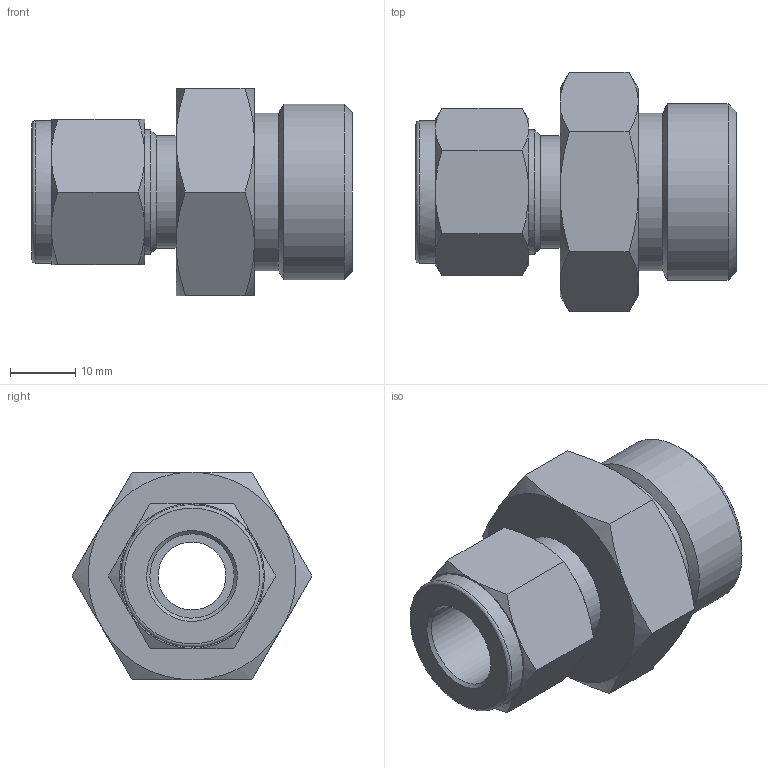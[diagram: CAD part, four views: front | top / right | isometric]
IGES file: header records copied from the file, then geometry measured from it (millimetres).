
Global section: file name: SSMC-8-12U; native system: Autodesk Inventor 2016; preprocessor: unknown; author: DESIGNPC2; date: 20160123.144446; units: millimetre
Bounding box: 49.1 x 36.72 x 31.8 mm (x, y, z)
Volume: 21658.6 mm3; surface area: 7815.2 mm2
Topology: 1 solids, 1 shells, 57 faces, 136 edges, 87 vertices
Faces by surface type: bspline 57
